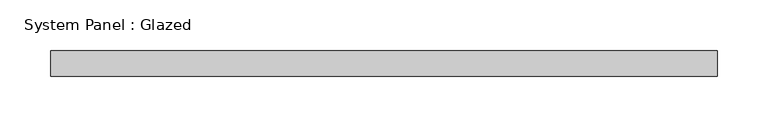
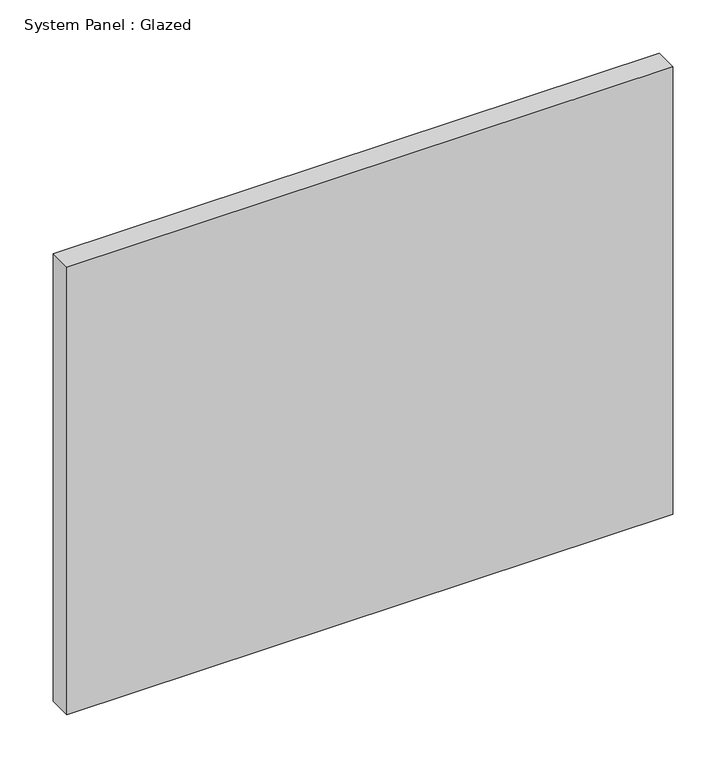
"""IFC4 building model written with IfcOpenShell, lengths in millimetres: plate geometry, System Panel : Glazed."""

from ifc_helpers import new_model, si_unit, origin, origin_with_axes, place, context, project, spatial, polyline, outline, extrude, source, transform, mapped, element, save


def system_panel_glazed_ee7bb25c(model_context):
    return source(origin(), model_context, "Body", "SweptSolid", [
        extrude(outline(polyline([(329.45, -44.45), (-329.45, -44.45), (-329.45, -19.05), (329.45, -19.05), (329.45, -44.45)])), origin_with_axes(), (0.0, 0.0, 1.0), 514.35),
    ])


if __name__ == "__main__":
    model = new_model("IFC4")
    model_context = context("Model", 3, world=origin())
    ifc_project = project(units=[si_unit("LENGTHUNIT", "METRE", prefix="MILLI")], contexts=[model_context])
    site = spatial("IfcSite", under=ifc_project)
    building = spatial("IfcBuilding", under=site)
    placement = place(None, origin())
    system_panel_glazed_shape = system_panel_glazed_ee7bb25c(model_context)
    element("IfcPlate", 1, ObjectType="System Panel : Glazed", at=placement, inside=building, context=model_context, shape_type="MappedRepresentation", body=[
        mapped(system_panel_glazed_shape, transform((0.0, 0.0, 0.0), x_axis=(1.0, 0.0, 0.0), y_axis=(0.0, 1.0, 0.0), z_axis=(0.0, 0.0, 1.0))),
    ])
    save(model, "model.ifc")
